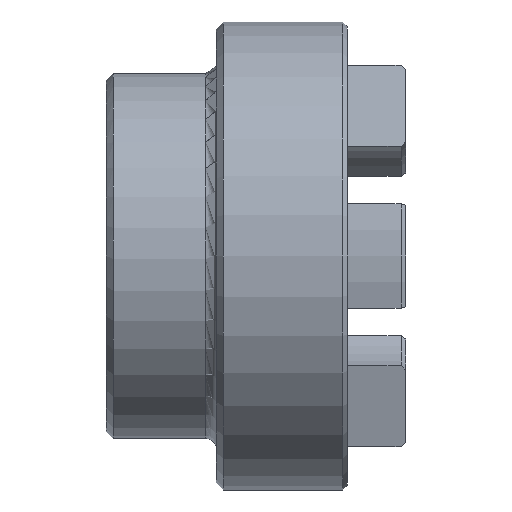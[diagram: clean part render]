
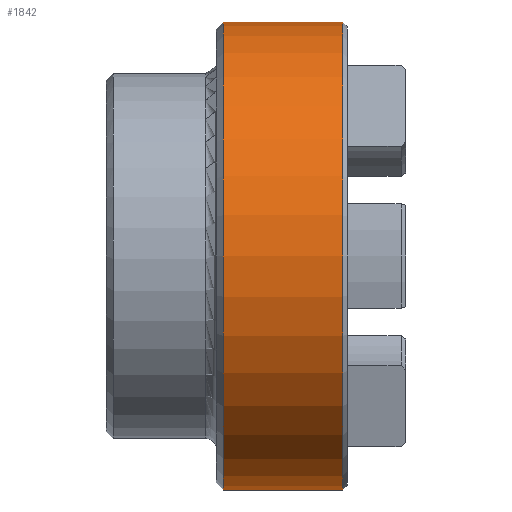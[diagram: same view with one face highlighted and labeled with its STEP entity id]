
A CAD part, front view. The second image highlights one B-rep face of the part: STEP entity #1842.
In plain terms, the highlighted cylindrical face has radius 50.8 mm (diameter 101.6 mm), a full revolution.
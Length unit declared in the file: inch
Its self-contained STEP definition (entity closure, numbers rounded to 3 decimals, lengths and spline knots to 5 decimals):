
#6 = DIRECTION ( 'NONE',  ( -1., 0., 0. ) ) ;
#435 = EDGE_CURVE ( 'NONE', #1788, #1788, #1530, .T. ) ;
#463 = DIRECTION ( 'NONE',  ( 0., 0., -1. ) ) ;
#597 = FACE_OUTER_BOUND ( 'NONE', #1396, .T. ) ;
#687 = CARTESIAN_POINT ( 'NONE',  ( 2.02, 0., 0. ) ) ;
#886 = ORIENTED_EDGE ( 'NONE', *, *, #435, .T. ) ;
#895 = EDGE_LOOP ( 'NONE', ( #1233 ) ) ;
#973 = AXIS2_PLACEMENT_3D ( 'NONE', #2526, #1434, #2381 ) ;
#1026 = CIRCLE ( 'NONE', #1328, 2. ) ;
#1079 = AXIS2_PLACEMENT_3D ( 'NONE', #1513, #1553, #463 ) ;
#1081 = CYLINDRICAL_SURFACE ( 'NONE', #973, 2. ) ;
#1233 = ORIENTED_EDGE ( 'NONE', *, *, #2131, .T. ) ;
#1328 = AXIS2_PLACEMENT_3D ( 'NONE', #687, #6, #1968 ) ;
#1396 = EDGE_LOOP ( 'NONE', ( #886 ) ) ;
#1434 = DIRECTION ( 'NONE',  ( -1., 0., 0. ) ) ;
#1513 = CARTESIAN_POINT ( 'NONE',  ( 1., 0., 0. ) ) ;
#1530 = CIRCLE ( 'NONE', #1079, 2. ) ;
#1553 = DIRECTION ( 'NONE',  ( 1., 0., 0. ) ) ;
#1590 = CARTESIAN_POINT ( 'NONE',  ( 2.02, 0., 2. ) ) ;
#1702 = FACE_OUTER_BOUND ( 'NONE', #895, .T. ) ;
#1788 = VERTEX_POINT ( 'NONE', #2448 ) ;
#1842 = ADVANCED_FACE ( 'NONE', ( #1702, #597 ), #1081, .T. ) ;
#1872 = VERTEX_POINT ( 'NONE', #1590 ) ;
#1968 = DIRECTION ( 'NONE',  ( 0., 0., 1. ) ) ;
#2131 = EDGE_CURVE ( 'NONE', #1872, #1872, #1026, .T. ) ;
#2381 = DIRECTION ( 'NONE',  ( 0., 0., 1. ) ) ;
#2448 = CARTESIAN_POINT ( 'NONE',  ( 1., 0., -2. ) ) ;
#2526 = CARTESIAN_POINT ( 'NONE',  ( 0.49, 0., 0. ) ) ;
